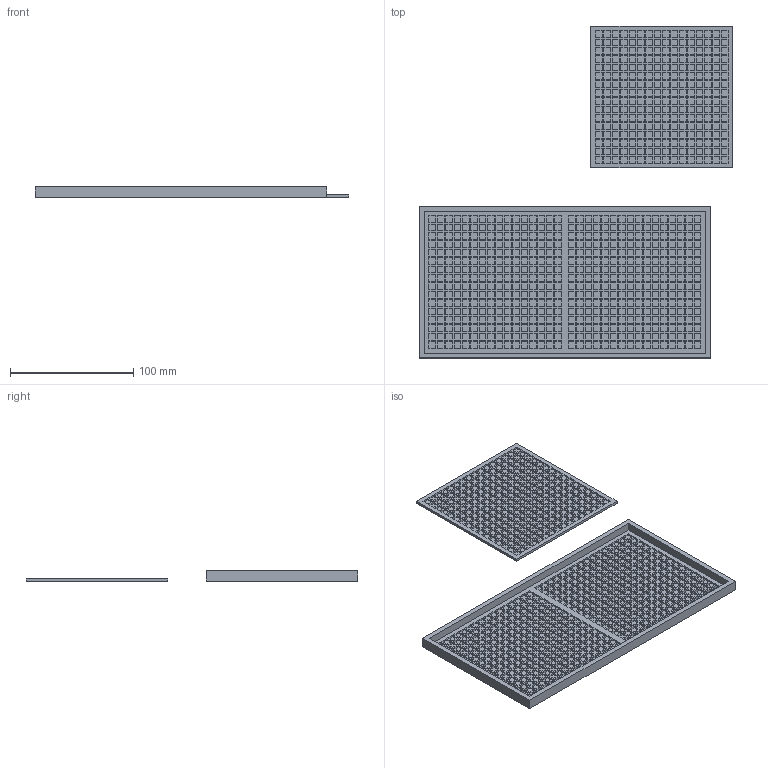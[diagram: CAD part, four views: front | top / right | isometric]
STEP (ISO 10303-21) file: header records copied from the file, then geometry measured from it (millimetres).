
FILE_DESCRIPTION(/* description */ (''),/* implementation_level */ '2;1');
FILE_NAME(/* name */ 'LED matrix.step',/* time_stamp */ '2026-10-11T14:51:06+02:00',/* author */ (''),/* organization */ (''),/* preprocessor_version */ 'ST-DEVELOPER v20.2',/* originating_system */ 'Autodesk Translation Framework v15.15.0.0',/* authorisation */ '');
FILE_SCHEMA (('AUTOMOTIVE_DESIGN { 1 0 10303 214 3 1 1 }'));
Products named in the file (1): 2026-10-02-18-06-21-801
Bounding box: 254 x 269 x 8.6 mm (x, y, z)
Volume: 66329.7 mm3; surface area: 121306.2 mm2
Topology: 2 solids, 2 shells, 3857 faces, 9255 edges, 6171 vertices
Faces by surface type: plane 3857
Entity records: 109565 total; most frequent: CARTESIAN_POINT 19284, ORIENTED_EDGE 18510, DIRECTION 16971, LINE 9255, VECTOR 9255, EDGE_CURVE 9255, VERTEX_POINT 6171, EDGE_LOOP 4626
